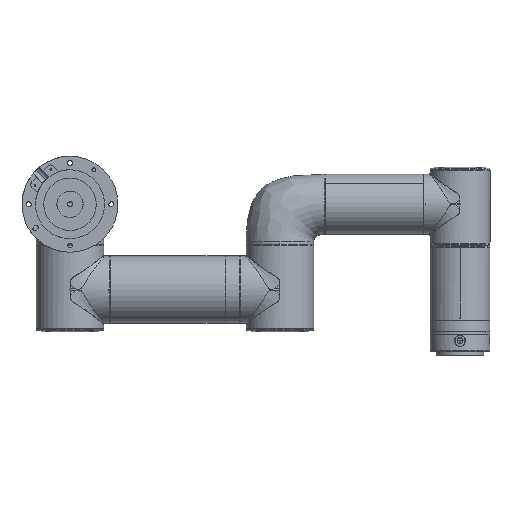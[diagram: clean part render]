
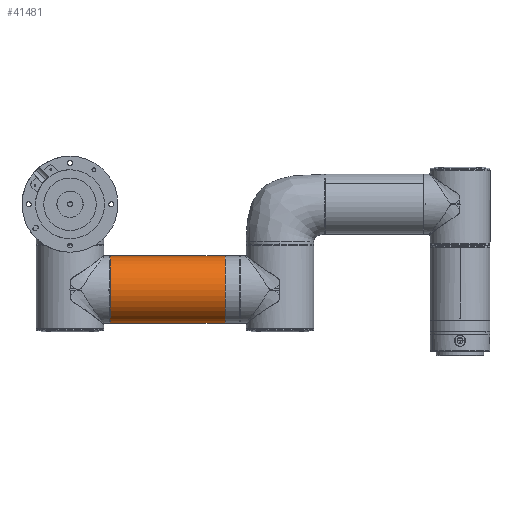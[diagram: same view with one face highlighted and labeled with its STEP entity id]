
A CAD part, front view. The second image highlights one B-rep face of the part: STEP entity #41481.
In plain terms, the highlighted cylindrical face has radius 45 mm (diameter 90 mm), a partial arc.
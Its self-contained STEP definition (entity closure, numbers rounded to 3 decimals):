
#1445 = DIRECTION ( 'NONE',  ( -1., 0., 0. ) ) ;
#11268 = CARTESIAN_POINT ( 'NONE',  ( 180., 0., -45. ) ) ;
#12658 = CARTESIAN_POINT ( 'NONE',  ( 4., 0., 45. ) ) ;
#15002 = DIRECTION ( 'NONE',  ( 0., 0., 1. ) ) ;
#17731 = VERTEX_POINT ( 'NONE', #126865 ) ;
#19775 = EDGE_CURVE ( 'NONE', #85280, #93540, #156389, .T. ) ;
#30823 = EDGE_CURVE ( 'NONE', #17731, #101292, #157144, .T. ) ;
#34733 = CARTESIAN_POINT ( 'NONE',  ( 156.8, 0., 45. ) ) ;
#37039 = ORIENTED_EDGE ( 'NONE', *, *, #100626, .T. ) ;
#37578 = DIRECTION ( 'NONE',  ( -1., 0., 0. ) ) ;
#41481 = ADVANCED_FACE ( 'NONE', ( #130038 ), #151404, .T. ) ;
#47174 = AXIS2_PLACEMENT_3D ( 'NONE', #89414, #1445, #15002 ) ;
#49350 = VECTOR ( 'NONE', #60339, 1000. ) ;
#50525 = DIRECTION ( 'NONE',  ( -1., 0., 0. ) ) ;
#60339 = DIRECTION ( 'NONE',  ( -1., 0., 0. ) ) ;
#71351 = EDGE_LOOP ( 'NONE', ( #102693, #104731, #37039, #82199 ) ) ;
#72348 = CARTESIAN_POINT ( 'NONE',  ( 4., 0., 0. ) ) ;
#74194 = CARTESIAN_POINT ( 'NONE',  ( 4., 0., -45. ) ) ;
#75594 = CARTESIAN_POINT ( 'NONE',  ( 156.8, 0., 0. ) ) ;
#82199 = ORIENTED_EDGE ( 'NONE', *, *, #19775, .F. ) ;
#83228 = CARTESIAN_POINT ( 'NONE',  ( 180., 0., 45. ) ) ;
#85280 = VERTEX_POINT ( 'NONE', #74194 ) ;
#89288 = VECTOR ( 'NONE', #123228, 1000. ) ;
#89414 = CARTESIAN_POINT ( 'NONE',  ( 180., 0., 0. ) ) ;
#93205 = LINE ( 'NONE', #11268, #89288 ) ;
#93540 = VERTEX_POINT ( 'NONE', #12658 ) ;
#96713 = AXIS2_PLACEMENT_3D ( 'NONE', #72348, #50525, #146850 ) ;
#100626 = EDGE_CURVE ( 'NONE', #101292, #93540, #115604, .T. ) ;
#101292 = VERTEX_POINT ( 'NONE', #34733 ) ;
#102693 = ORIENTED_EDGE ( 'NONE', *, *, #114084, .F. ) ;
#104731 = ORIENTED_EDGE ( 'NONE', *, *, #30823, .T. ) ;
#114084 = EDGE_CURVE ( 'NONE', #17731, #85280, #93205, .T. ) ;
#115604 = LINE ( 'NONE', #83228, #49350 ) ;
#123228 = DIRECTION ( 'NONE',  ( -1., 0., 0. ) ) ;
#124088 = DIRECTION ( 'NONE',  ( 0., 0., -1. ) ) ;
#126865 = CARTESIAN_POINT ( 'NONE',  ( 156.8, 0., -45. ) ) ;
#130038 = FACE_OUTER_BOUND ( 'NONE', #71351, .T. ) ;
#146850 = DIRECTION ( 'NONE',  ( 0., 0., 1. ) ) ;
#151404 = CYLINDRICAL_SURFACE ( 'NONE', #47174, 45. ) ;
#156389 = CIRCLE ( 'NONE', #96713, 45. ) ;
#157144 = CIRCLE ( 'NONE', #158501, 45. ) ;
#158501 = AXIS2_PLACEMENT_3D ( 'NONE', #75594, #37578, #124088 ) ;
